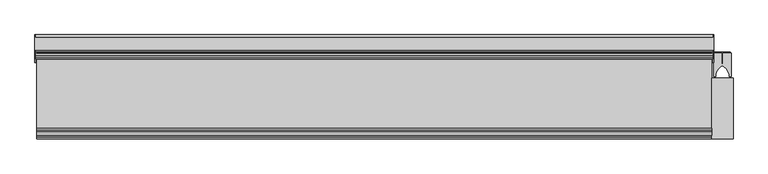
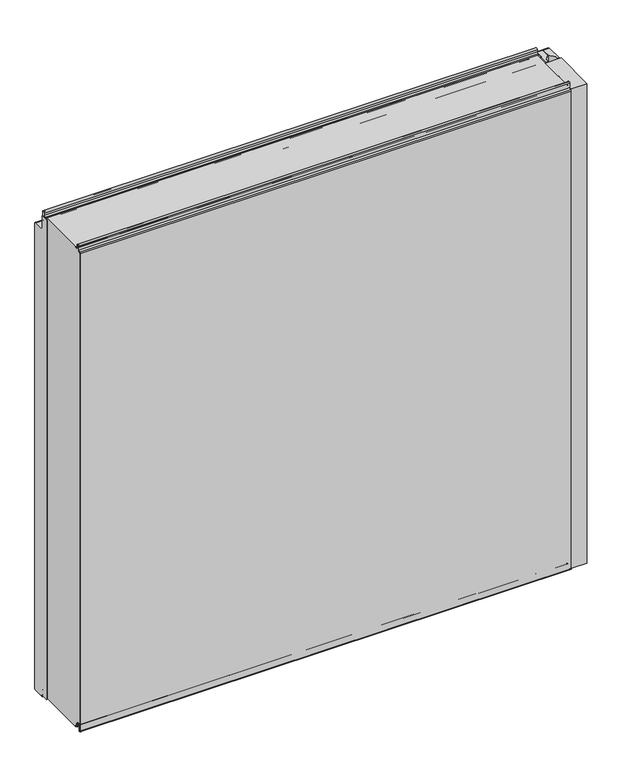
"""IFC4 building model written with IfcOpenShell, lengths in millimetres: plate geometry, Fronttop : Fronttop 150/1000."""

from ifc_helpers import new_model, si_unit, point, frame, frame_2d, origin, origin_with_axes, place, context, project, spatial, polyline, circle_curve, trimmed, segment, composite_curve, outline, extrude, source, transform, mapped, element, save
from ifc_brep_helpers import plane_surface, cylinder_surface, revolved_surface, advanced_brep


def plate_18d6e1de(model_context):
    return source(origin(), model_context, "Body", "SolidModel", [
        advanced_brep(
        [(-486.5, 124.0, 1008.0), (-486.5, 121.0, 1008.0), (-486.5, 121.0, 1004.0), (-486.5, 117.0, 1000.0), (-486.5, 115.0, 1000.0), (-486.5, 115.0, 1001.0), (-486.5, 117.0, 1001.0), (-486.5, 120.0, 1004.0), (-486.5, 120.0, 1008.0), (-486.5, 125.0, 1008.0), (-486.5, 125.0, 1000.0), (-486.5, 124.0, 1000.0), (486.5, 125.0, 1008.0), (486.5, 120.0, 1008.0), (486.5, 120.0, 1004.0), (486.5, 117.0, 1001.0), (486.5, 115.0, 1001.0), (486.5, 115.0, 1000.0), (486.5, 117.0, 1000.0), (486.5, 121.0, 1004.0), (486.5, 121.0, 1008.0), (486.5, 124.0, 1008.0), (486.5, 124.0, 1000.0), (486.5, 125.0, 1000.0), (-486.5, 117.0, 2.0), (486.5, 117.0, 2.0), (486.5, 115.0, 2.0), (-486.5, 115.0, 2.0), (-486.5, 119.0, 4.0), (486.5, 119.0, 4.0), (-486.5, 119.0, 8.0), (486.5, 119.0, 8.0), (-486.5, 126.0, 8.0), (486.5, 126.0, 8.0), (-486.5, 126.0, 0.0), (486.5, 126.0, 0.0), (-486.5, 129.0, -3.0), (486.5, 129.0, -3.0), (-486.5, 125.0, -3.0), (-487.5, 125.0, -3.0), (-487.5, 147.0, -3.0), (-486.5, 147.0, -3.0), (486.5, 147.0, -3.0), (487.5, 147.0, -3.0), (487.5, 125.0, -3.0), (486.5, 125.0, -3.0), (-486.5, 150.0, 0.0), (486.5, 150.0, 0.0), (-487.5, 150.0, 0.0), (-487.5, 150.0, 969.0), (-486.5, 150.0, 969.0), (486.5, 150.0, 969.0), (487.5, 150.0, 969.0), (487.5, 150.0, 0.0), (-486.5, 147.0, 972.0), (486.5, 147.0, 972.0), (-487.5, 147.0, 972.0), (-487.5, 128.0, 972.0), (-486.5, 128.0, 972.0), (486.5, 128.0, 972.0), (487.5, 128.0, 972.0), (487.5, 147.0, 972.0), (-486.5, 125.0, 975.0), (486.5, 125.0, 975.0), (-487.5, 125.0, 975.0), (-487.5, 125.0, 1000.0), (487.5, 125.0, 1000.0), (487.5, 125.0, 975.0), (-486.5, 124.0, 975.0), (486.5, 124.0, 975.0), (-486.5, 128.0, 971.0), (486.5, 128.0, 971.0), (-486.5, 147.0, 971.0), (486.5, 147.0, 971.0), (-486.5, 149.0, 969.0), (486.5, 149.0, 969.0), (-486.5, 149.0, 0.0), (486.5, 149.0, 0.0), (-486.5, 147.0, -2.0), (486.5, 147.0, -2.0), (-486.5, 129.0, -2.0), (486.5, 129.0, -2.0), (-486.5, 127.0, 0.0), (486.5, 127.0, 0.0), (-486.5, 127.0, 8.0), (486.5, 127.0, 8.0), (-486.5, 118.0, 8.0), (486.5, 118.0, 8.0), (-486.5, 118.0, 4.0), (486.5, 118.0, 4.0), (-486.5, 117.0, 3.0), (486.5, 117.0, 3.0), (-486.5, 115.0, 3.0), (486.5, 115.0, 3.0), (487.5, 110.0, 1000.0), (487.5, 110.0, 0.0), (487.5, 125.0, 0.0), (486.5, 125.0, 0.0), (486.5, 110.0, 0.0), (486.5, 110.0, 1000.0), (-487.5, 125.0, 0.0), (-487.5, 110.0, 0.0), (-487.5, 110.0, 1000.0), (-486.5, 110.0, 1000.0), (-486.5, 110.0, 0.0), (-486.5, 125.0, 0.0)],
        [
            (0, 1, circle_curve(frame((-486.5, 122.5, 1008.0), z_axis=(1.0, 0.0, 0.0), x_axis=(0.0, -1.0, 0.0)), 1.5)),
            (1, 2),
            (2, 3, circle_curve(frame((-486.5, 117.0, 1004.0), z_axis=(-1.0, 0.0, 0.0), x_axis=(0.0, -1.0, 0.0)), 4.0)),
            (3, 4),
            (4, 5),
            (5, 6),
            (6, 7, circle_curve(frame((-486.5, 117.0, 1004.0), z_axis=(1.0, 0.0, 0.0), x_axis=(0.0, -1.0, 0.0)), 3.0)),
            (7, 8),
            (8, 9, circle_curve(frame((-486.5, 122.5, 1008.0), z_axis=(-1.0, 0.0, 0.0), x_axis=(0.0, -1.0, 0.0)), 2.5)),
            (9, 10),
            (10, 11),
            (11, 0),
            (12, 13, circle_curve(frame((486.5, 122.5, 1008.0), z_axis=(1.0, 0.0, 0.0), x_axis=(0.0, -1.0, 0.0)), 2.5)),
            (13, 14),
            (14, 15, circle_curve(frame((486.5, 117.0, 1004.0), z_axis=(-1.0, 0.0, 0.0), x_axis=(0.0, -1.0, 0.0)), 3.0)),
            (15, 16),
            (16, 17),
            (17, 18),
            (18, 19, circle_curve(frame((486.5, 117.0, 1004.0), z_axis=(1.0, 0.0, 0.0), x_axis=(0.0, -1.0, 0.0)), 4.0)),
            (19, 20),
            (20, 21, circle_curve(frame((486.5, 122.5, 1008.0), z_axis=(-1.0, 0.0, 0.0), x_axis=(0.0, -1.0, 0.0)), 1.5)),
            (21, 22),
            (22, 23),
            (23, 12),
            (24, 25),
            (25, 26),
            (26, 27),
            (27, 24),
            (24, 28, circle_curve(frame((-486.5, 117.0, 4.0), z_axis=(1.0, 0.0, 0.0), x_axis=(0.0, -1.0, 0.0)), 2.0)),
            (28, 29),
            (29, 25, circle_curve(frame((486.5, 117.0, 4.0), z_axis=(-1.0, 0.0, 0.0), x_axis=(0.0, -1.0, 0.0)), 2.0)),
            (28, 30),
            (30, 31),
            (31, 29),
            (30, 32, circle_curve(frame((-486.5, 122.5, 8.0), z_axis=(-1.0, 0.0, 0.0), x_axis=(0.0, -1.0, 0.0)), 3.5)),
            (32, 33),
            (33, 31, circle_curve(frame((486.5, 122.5, 8.0), z_axis=(1.0, 0.0, 0.0), x_axis=(0.0, -1.0, 0.0)), 3.5)),
            (32, 34),
            (34, 35),
            (35, 33),
            (34, 36, circle_curve(frame((-486.5, 129.0, 0.0), z_axis=(1.0, 0.0, 0.0), x_axis=(0.0, -1.0, 0.0)), 3.0)),
            (36, 37),
            (37, 35, circle_curve(frame((486.5, 129.0, 0.0), z_axis=(-1.0, 0.0, 0.0), x_axis=(0.0, -1.0, 0.0)), 3.0)),
            (36, 38),
            (38, 39),
            (39, 40),
            (40, 41),
            (41, 42),
            (42, 43),
            (43, 44),
            (44, 45),
            (45, 37),
            (41, 46, circle_curve(frame((-486.5, 147.0, 0.0), z_axis=(1.0, 0.0, 0.0), x_axis=(0.0, -1.0, 0.0)), 3.0)),
            (46, 47),
            (47, 42, circle_curve(frame((486.5, 147.0, 0.0), z_axis=(-1.0, 0.0, 0.0), x_axis=(0.0, -1.0, 0.0)), 3.0)),
            (46, 48),
            (48, 49),
            (49, 50),
            (50, 51),
            (51, 52),
            (52, 53),
            (53, 47),
            (50, 54, circle_curve(frame((-486.5, 147.0, 969.0), z_axis=(1.0, 0.0, 0.0), x_axis=(0.0, -1.0, 0.0)), 3.0)),
            (54, 55),
            (55, 51, circle_curve(frame((486.5, 147.0, 969.0), z_axis=(-1.0, 0.0, 0.0), x_axis=(0.0, -1.0, 0.0)), 3.0)),
            (54, 56),
            (56, 57),
            (57, 58),
            (58, 59),
            (59, 60),
            (60, 61),
            (61, 55),
            (58, 62, circle_curve(frame((-486.5, 128.0, 975.0), z_axis=(-1.0, 0.0, 0.0), x_axis=(0.0, -1.0, 0.0)), 3.0)),
            (62, 63),
            (63, 59, circle_curve(frame((486.5, 128.0, 975.0), z_axis=(1.0, 0.0, 0.0), x_axis=(0.0, -1.0, 0.0)), 3.0)),
            (62, 64),
            (64, 65),
            (65, 10),
            (9, 12),
            (23, 66),
            (66, 67),
            (67, 63),
            (8, 13),
            (7, 14),
            (6, 15),
            (5, 16),
            (4, 17),
            (4, 3),
            (3, 18),
            (18, 17),
            (2, 19),
            (1, 20),
            (0, 21),
            (11, 68),
            (68, 69),
            (69, 22),
            (68, 70, circle_curve(frame((-486.5, 128.0, 975.0), z_axis=(1.0, 0.0, 0.0), x_axis=(0.0, -1.0, 0.0)), 4.0)),
            (70, 71),
            (71, 69, circle_curve(frame((486.5, 128.0, 975.0), z_axis=(-1.0, 0.0, 0.0), x_axis=(0.0, -1.0, 0.0)), 4.0)),
            (70, 72),
            (72, 73),
            (73, 71),
            (72, 74, circle_curve(frame((-486.5, 147.0, 969.0), z_axis=(-1.0, 0.0, 0.0), x_axis=(0.0, -1.0, 0.0)), 2.0)),
            (74, 75),
            (75, 73, circle_curve(frame((486.5, 147.0, 969.0), z_axis=(1.0, 0.0, 0.0), x_axis=(0.0, -1.0, 0.0)), 2.0)),
            (74, 76),
            (76, 77),
            (77, 75),
            (76, 78, circle_curve(frame((-486.5, 147.0, 0.0), z_axis=(-1.0, 0.0, 0.0), x_axis=(0.0, -1.0, 0.0)), 2.0)),
            (78, 79),
            (79, 77, circle_curve(frame((486.5, 147.0, 0.0), z_axis=(1.0, 0.0, 0.0), x_axis=(0.0, -1.0, 0.0)), 2.0)),
            (78, 80),
            (80, 81),
            (81, 79),
            (80, 82, circle_curve(frame((-486.5, 129.0, 0.0), z_axis=(-1.0, 0.0, 0.0), x_axis=(0.0, -1.0, 0.0)), 2.0)),
            (82, 83),
            (83, 81, circle_curve(frame((486.5, 129.0, 0.0), z_axis=(1.0, 0.0, 0.0), x_axis=(0.0, -1.0, 0.0)), 2.0)),
            (82, 84),
            (84, 85),
            (85, 83),
            (84, 86, circle_curve(frame((-486.5, 122.5, 8.0), z_axis=(1.0, 0.0, 0.0), x_axis=(0.0, -1.0, 0.0)), 4.5)),
            (86, 87),
            (87, 85, circle_curve(frame((486.5, 122.5, 8.0), z_axis=(-1.0, 0.0, 0.0), x_axis=(0.0, -1.0, 0.0)), 4.5)),
            (86, 88),
            (88, 89),
            (89, 87),
            (88, 90, circle_curve(frame((-486.5, 117.0, 4.0), z_axis=(-1.0, 0.0, 0.0), x_axis=(0.0, -1.0, 0.0)), 1.0)),
            (90, 91),
            (91, 89, circle_curve(frame((486.5, 117.0, 4.0), z_axis=(1.0, 0.0, 0.0), x_axis=(0.0, -1.0, 0.0)), 1.0)),
            (90, 92),
            (92, 93),
            (93, 91),
            (26, 93),
            (92, 27),
            (66, 94),
            (94, 95),
            (95, 96),
            (96, 44),
            (43, 53, circle_curve(frame((487.5, 147.0, 0.0), z_axis=(1.0, 0.0, 0.0), x_axis=(0.0, 1.0, 0.0)), 3.0)),
            (52, 61, circle_curve(frame((487.5, 147.0, 969.0), z_axis=(1.0, 0.0, 0.0), x_axis=(0.0, 1.0, 0.0)), 3.0)),
            (60, 67, circle_curve(frame((487.5, 128.0, 975.0), z_axis=(-1.0, 0.0, 0.0), x_axis=(0.0, 1.0, 0.0)), 3.0)),
            (45, 97),
            (97, 98),
            (98, 99),
            (99, 17),
            (18, 22),
            (99, 94),
            (98, 95),
            (97, 96),
            (64, 57, circle_curve(frame((-487.5, 128.0, 975.0), z_axis=(1.0, 0.0, 0.0), x_axis=(0.0, 1.0, 0.0)), 3.0)),
            (56, 49, circle_curve(frame((-487.5, 147.0, 969.0), z_axis=(-1.0, 0.0, 0.0), x_axis=(0.0, 1.0, 0.0)), 3.0)),
            (48, 40, circle_curve(frame((-487.5, 147.0, 0.0), z_axis=(-1.0, 0.0, 0.0), x_axis=(0.0, 1.0, 0.0)), 3.0)),
            (39, 100),
            (100, 101),
            (101, 102),
            (102, 65),
            (103, 104),
            (104, 105),
            (105, 38),
            (11, 3),
            (4, 103),
            (102, 103),
            (101, 104),
            (100, 105),
        ],
        [
            plane_surface(frame((-486.5, 0.0, 0.0), z_axis=(-1.0, 0.0, 0.0), x_axis=(0.0, 0.0, 1.0))),
            plane_surface(frame((486.5, 0.0, 0.0), z_axis=(1.0, 0.0, 0.0), x_axis=(0.0, 0.0, 1.0))),
            plane_surface(frame((-486.5, 117.0, 2.0), z_axis=(0.0, 0.0, -1.0), x_axis=(1.0, 0.0, 0.0))),
            cylinder_surface(frame((-486.5, 117.0, 4.0), z_axis=(-1.0, 0.0, 0.0), x_axis=(0.0, -1.0, 0.0)), 2.0),
            plane_surface(frame((-486.5, 119.0, 8.0), z_axis=(0.0, 1.0, 0.0), x_axis=(1.0, 0.0, 0.0))),
            revolved_surface(polyline([(486.5, 119.0, 8.0), (-486.5, 119.0, 8.0)]), (-486.5, 122.5, 8.0), (1.0, 0.0, 0.0)),
            plane_surface(frame((-486.5, 126.0, 0.0), z_axis=(0.0, -1.0, 0.0), x_axis=(1.0, 0.0, 0.0))),
            cylinder_surface(frame((-486.5, 129.0, 0.0), z_axis=(-1.0, 0.0, 0.0), x_axis=(0.0, -1.0, 0.0)), 3.0),
            plane_surface(frame((-486.5, 147.0, -3.0), z_axis=(0.0, 0.0, -1.0), x_axis=(1.0, 0.0, 0.0))),
            cylinder_surface(frame((-486.5, 147.0, 0.0), z_axis=(-1.0, 0.0, 0.0), x_axis=(0.0, -1.0, 0.0)), 3.0),
            plane_surface(frame((-486.5, 150.0, 969.0), z_axis=(0.0, 1.0, 0.0), x_axis=(1.0, 0.0, 0.0))),
            cylinder_surface(frame((-486.5, 147.0, 969.0), z_axis=(-1.0, 0.0, 0.0), x_axis=(0.0, -1.0, 0.0)), 3.0),
            plane_surface(frame((-486.5, 128.0, 972.0), z_axis=(0.0, 0.0, 1.0), x_axis=(1.0, 0.0, 0.0))),
            revolved_surface(polyline([(486.5, 125.0, 975.0), (-486.5, 125.0, 975.0)]), (-486.5, 128.0, 975.0), (1.0, 0.0, 0.0)),
            plane_surface(frame((-486.5, 125.0, 1008.0), z_axis=(0.0, 1.0, 0.0), x_axis=(1.0, 0.0, 0.0))),
            cylinder_surface(frame((-486.5, 122.5, 1008.0), z_axis=(-1.0, 0.0, 0.0), x_axis=(0.0, -1.0, 0.0)), 2.5),
            plane_surface(frame((-486.5, 120.0, 1004.0), z_axis=(0.0, -1.0, 0.0), x_axis=(1.0, 0.0, 0.0))),
            revolved_surface(polyline([(486.5, 114.0, 1004.0), (-486.5, 114.0, 1004.0)]), (-486.5, 117.0, 1004.0), (1.0, 0.0, 0.0)),
            plane_surface(frame((-486.5, 115.0, 1001.0), z_axis=(0.0, 0.0, 1.0), x_axis=(1.0, 0.0, 0.0))),
            plane_surface(frame((-486.5, 115.0, 1000.0), z_axis=(0.0, -1.0, 0.0), x_axis=(1.0, 0.0, 0.0))),
            plane_surface(frame((-486.5, 117.0, 1000.0), z_axis=(0.0, 0.0, -1.0), x_axis=(1.0, 0.0, 0.0))),
            cylinder_surface(frame((-486.5, 117.0, 1004.0), z_axis=(-1.0, 0.0, 0.0), x_axis=(0.0, -1.0, 0.0)), 4.0),
            plane_surface(frame((-486.5, 121.0, 1008.0), z_axis=(0.0, 1.0, 0.0), x_axis=(1.0, 0.0, 0.0))),
            revolved_surface(polyline([(486.5, 121.0, 1008.0), (-486.5, 121.0, 1008.0)]), (-486.5, 122.5, 1008.0), (1.0, 0.0, 0.0)),
            plane_surface(frame((-486.5, 124.0, 975.0), z_axis=(0.0, -1.0, 0.0), x_axis=(1.0, 0.0, 0.0))),
            cylinder_surface(frame((-486.5, 128.0, 975.0), z_axis=(-1.0, 0.0, 0.0), x_axis=(0.0, -1.0, 0.0)), 4.0),
            plane_surface(frame((-486.5, 147.0, 971.0), z_axis=(0.0, 0.0, -1.0), x_axis=(1.0, 0.0, 0.0))),
            revolved_surface(polyline([(486.5, 145.0, 969.0), (-486.5, 145.0, 969.0)]), (-486.5, 147.0, 969.0), (1.0, 0.0, 0.0)),
            plane_surface(frame((-486.5, 149.0, 0.0), z_axis=(0.0, -1.0, 0.0), x_axis=(1.0, 0.0, 0.0))),
            revolved_surface(polyline([(486.5, 145.0, 0.0), (-486.5, 145.0, 0.0)]), (-486.5, 147.0, 0.0), (1.0, 0.0, 0.0)),
            plane_surface(frame((-486.5, 129.0, -2.0), z_axis=(0.0, 0.0, 1.0), x_axis=(1.0, 0.0, 0.0))),
            revolved_surface(polyline([(486.5, 127.0, 0.0), (-486.5, 127.0, 0.0)]), (-486.5, 129.0, 0.0), (1.0, 0.0, 0.0)),
            plane_surface(frame((-486.5, 127.0, 8.0), z_axis=(0.0, 1.0, 0.0), x_axis=(1.0, 0.0, 0.0))),
            cylinder_surface(frame((-486.5, 122.5, 8.0), z_axis=(-1.0, 0.0, 0.0), x_axis=(0.0, -1.0, 0.0)), 4.5),
            plane_surface(frame((-486.5, 118.0, 4.0), z_axis=(0.0, -1.0, 0.0), x_axis=(1.0, 0.0, 0.0))),
            revolved_surface(polyline([(486.5, 116.0, 4.0), (-486.5, 116.0, 4.0)]), (-486.5, 117.0, 4.0), (1.0, 0.0, 0.0)),
            plane_surface(frame((-486.5, 115.0, 3.0), z_axis=(0.0, 0.0, 1.0), x_axis=(1.0, 0.0, 0.0))),
            plane_surface(frame((-486.5, 115.0, 2.0), z_axis=(0.0, -1.0, 0.0), x_axis=(1.0, 0.0, 0.0))),
            plane_surface(frame((487.5, 125.0, 1000.0), z_axis=(1.0, 0.0, 0.0), x_axis=(0.0, -1.0, 0.0))),
            plane_surface(frame((486.5, 125.0, 1000.0), z_axis=(-1.0, 0.0, 0.0), x_axis=(0.0, 1.0, 0.0))),
            plane_surface(frame((487.5, 125.0, 1000.0), z_axis=(0.0, 0.0, 1.0), x_axis=(-1.0, 0.0, 0.0))),
            plane_surface(frame((487.5, 110.0, 1000.0), z_axis=(0.0, -1.0, 0.0), x_axis=(-1.0, 0.0, 0.0))),
            plane_surface(frame((487.5, 110.0, 0.0), z_axis=(0.0, 0.0, -1.0), x_axis=(-1.0, 0.0, 0.0))),
            cylinder_surface(frame((486.5, 147.0, 0.0), z_axis=(1.0, 0.0, 0.0), x_axis=(0.0, 1.0, 0.0)), 3.0),
            cylinder_surface(frame((486.5, 147.0, 969.0), z_axis=(1.0, 0.0, 0.0), x_axis=(0.0, 1.0, 0.0)), 3.0),
            revolved_surface(polyline([(486.5, 131.0, 975.0), (487.5, 131.0, 975.0)]), (486.5, 128.0, 975.0), (-1.0, 0.0, 0.0)),
            plane_surface(frame((-487.5, 125.0, 1000.0), z_axis=(-1.0, 0.0, 0.0), x_axis=(0.0, 1.0, 0.0))),
            plane_surface(frame((-486.5, 125.0, 1000.0), z_axis=(1.0, 0.0, 0.0), x_axis=(0.0, -1.0, 0.0))),
            plane_surface(frame((-486.5, 125.0, 1000.0), z_axis=(0.0, 0.0, 1.0), x_axis=(-1.0, 0.0, 0.0))),
            plane_surface(frame((-486.5, 110.0, 1000.0), z_axis=(0.0, -1.0, 0.0), x_axis=(-1.0, 0.0, 0.0))),
            plane_surface(frame((-486.5, 110.0, 0.0), z_axis=(0.0, 0.0, -1.0), x_axis=(-1.0, 0.0, 0.0))),
            cylinder_surface(frame((-487.5, 147.0, 0.0), z_axis=(1.0, 0.0, 0.0), x_axis=(0.0, 1.0, 0.0)), 3.0),
            cylinder_surface(frame((-487.5, 147.0, 969.0), z_axis=(1.0, 0.0, 0.0), x_axis=(0.0, 1.0, 0.0)), 3.0),
            revolved_surface(polyline([(-487.5, 131.0, 975.0), (-486.5, 131.0, 975.0)]), (-487.5, 128.0, 975.0), (-1.0, 0.0, 0.0)),
            plane_surface(frame((487.5, 125.0, 0.0), z_axis=(0.0, -1.0, 0.0), x_axis=(-1.0, 0.0, 0.0))),
            plane_surface(frame((-486.5, 125.0, 0.0), z_axis=(0.0, -1.0, 0.0), x_axis=(-1.0, 0.0, 0.0))),
        ],
        [
            (0, [[1, 2, 3, 4, 5, 6, 7, 8, 9, 10, 11, 12]]),
            (1, [[13, 14, 15, 16, 17, 18, 19, 20, 21, 22, 23, 24]]),
            (2, [[25, 26, 27, 28]]),
            (3, [[-25, 29, 30, 31]]),
            (4, [[-30, 32, 33, 34]]),
            (5, [[-33, 35, 36, 37]]),
            (6, [[-36, 38, 39, 40]]),
            (7, [[-39, 41, 42, 43]]),
            (8, [[-42, 44, 45, 46, 47, 48, 49, 50, 51, 52]]),
            (9, [[-48, 53, 54, 55]]),
            (10, [[-54, 56, 57, 58, 59, 60, 61, 62]]),
            (11, [[-59, 63, 64, 65]]),
            (12, [[-64, 66, 67, 68, 69, 70, 71, 72]]),
            (13, [[-69, 73, 74, 75]]),
            (14, [[-74, 76, 77, 78, -10, 79, -24, 80, 81, 82]]),
            (15, [[-9, 83, -13, -79]]),
            (16, [[-8, 84, -14, -83]]),
            (17, [[-7, 85, -15, -84]]),
            (18, [[-6, 86, -16, -85]]),
            (19, [[-5, 87, -17, -86]]),
            (20, [[-87, 88, 89, 90]]),
            (21, [[-3, 91, -19, -89]]),
            (22, [[-2, 92, -20, -91]]),
            (23, [[-1, 93, -21, -92]]),
            (24, [[-93, -12, 94, 95, 96, -22]]),
            (25, [[-95, 97, 98, 99]]),
            (26, [[-98, 100, 101, 102]]),
            (27, [[-101, 103, 104, 105]]),
            (28, [[-104, 106, 107, 108]]),
            (29, [[-107, 109, 110, 111]]),
            (30, [[-110, 112, 113, 114]]),
            (31, [[-113, 115, 116, 117]]),
            (32, [[-116, 118, 119, 120]]),
            (33, [[-119, 121, 122, 123]]),
            (34, [[-122, 124, 125, 126]]),
            (35, [[-125, 127, 128, 129]]),
            (36, [[-128, 130, 131, 132]]),
            (37, [[-27, 133, -131, 134]]),
            (38, [[135, 136, 137, 138, -50, 139, -61, 140, -71, 141, -81]]),
            (39, [[142, 143, 144, 145, -90, 146, -96, -99, -102, -105, -108, -111, -114, -117, -120, -123, -126, -129, -132, -133, -26, -31, -34, -37, -40, -43, -52]]),
            (40, [[-135, -80, -23, -146, -18, -145, 147]]),
            (41, [[-136, -147, -144, 148]]),
            (42, [[-137, -148, -143, 149]]),
            (43, [[-139, -49, -55, -62]]),
            (44, [[-140, -60, -65, -72]]),
            (45, [[-141, -70, -75, -82]]),
            (46, [[-77, 150, -67, 151, -57, 152, -46, 153, 154, 155, 156]]),
            (47, [[157, 158, 159, -44, -41, -38, -35, -32, -29, -28, -134, -130, -127, -124, -121, -118, -115, -112, -109, -106, -103, -100, -97, -94, 160, -88, 161]]),
            (48, [[-156, 162, -161, -4, -160, -11, -78]]),
            (49, [[-155, 163, -157, -162]]),
            (50, [[-154, 164, -158, -163]]),
            (51, [[-152, -56, -53, -47]]),
            (52, [[-151, -66, -63, -58]]),
            (53, [[-150, -76, -73, -68]]),
            (54, [[-138, -149, -142, -51]]),
            (55, [[-153, -45, -159, -164]]),
        ],
    ),
        extrude(outline(composite_curve([segment(polyline([(487.4998455, 123.5), (499.25, 123.5), (499.25, 107.5), (500.75, 107.5), (500.75, 123.5), (512.5001545, 123.5), (512.5001545, 90.0), (509.75, 90.0), (509.75, 92.5)]), True, "CONTINUOUS"), segment(trimmed(circle_curve(frame_2d((491.9661979, 89.3183984)), 18.0661619), [point((509.75, 92.5))], [point((500.0, 105.5))], True, "CARTESIAN"), True, "CONTINUOUS"), segment(trimmed(circle_curve(frame_2d((508.0338021, 89.3183984)), 18.0661619), [point((500.0, 105.5))], [point((490.25, 92.5))], True, "CARTESIAN"), True, "CONTINUOUS"), segment(polyline([(490.25, 92.5), (490.25, 90.0), (487.4998455, 90.0), (487.4998455, 123.5)]), True, "CONTINUOUS")], self_intersect=False)), origin_with_axes(), (0.0, 0.0, 1.0), 1000.0),
        extrude(outline(polyline([(515.5, 0.0), (484.5, 0.0), (484.5, 88.0), (515.5, 88.0), (515.5, 0.0)])), origin_with_axes(), (0.0, 0.0, 1.0), 1000.0),
        extrude(outline(polyline([(488.4948846, 125.0), (511.5051154, 125.0), (511.5051154, 123.5), (500.6502496, 123.5), (500.6502496, 109.0759655), (499.35, 109.0759655), (499.35, 123.5), (488.4948846, 123.5), (488.4948846, 125.0)])), origin_with_axes(), (0.0, 0.0, 1.0), 1000.0),
        advanced_brep(
        [(-484.5, 13.0, 1001.0), (-484.5, 15.0, 1001.0), (-484.5, 15.0, 1000.0), (-484.5, 13.0, 1000.0), (-484.5, 9.0, 1004.0), (-484.5, 9.0, 1008.0), (-484.5, 6.0, 1008.0), (-484.5, 6.0, 999.5), (-484.5, 2.1134897, 996.0214069), (-484.5, 1.0, 995.0), (-484.5, 1.0, -0.5), (-484.5, 3.0, -0.5), (-484.5, 3.0, 8.0), (-484.5, 12.0, 8.0), (-484.5, 12.0, 4.0), (-484.5, 13.0, 3.0), (-484.5, 15.0, 3.0), (-484.5, 15.0, 2.0), (-484.5, 13.0, 2.0), (-484.5, 11.0, 4.0), (-484.5, 11.0, 8.0), (-484.5, 4.0, 8.0), (-484.5, 4.0, -0.5), (-484.5, 0.0, -0.5), (-484.5, 0.0, 995.0), (-484.5, 2.220863, 996.9877675), (-484.5, 5.0, 999.5), (-484.5, 5.0, 1008.0), (-484.5, 10.0, 1008.0), (-484.5, 10.0, 1004.0), (484.5, 13.0, 1001.0), (484.5, 10.0, 1004.0), (484.5, 10.0, 1008.0), (484.5, 5.0, 1008.0), (484.5, 5.0, 999.5), (484.5, 2.2239212, 997.0152907), (484.5, 0.0, 995.0), (484.5, 0.0, -0.5), (484.5, 4.0, -0.5), (484.5, 4.0, 8.0), (484.5, 11.0, 8.0), (484.5, 11.0, 4.0), (484.5, 13.0, 2.0), (484.5, 15.0, 2.0), (484.5, 15.0, 3.0), (484.5, 13.0, 3.0), (484.5, 12.0, 4.0), (484.5, 12.0, 8.0), (484.5, 3.0, 8.0), (484.5, 3.0, -0.5), (484.5, 1.0, -0.5), (484.5, 1.0, 995.0), (484.5, 2.1104315, 995.9938837), (484.5, 6.0, 999.5), (484.5, 6.0, 1008.0), (484.5, 9.0, 1008.0), (484.5, 9.0, 1004.0), (484.5, 13.0, 1000.0), (484.5, 15.0, 1000.0), (484.5, 15.0, 1001.0)],
        [
            (0, 1),
            (1, 2),
            (2, 3),
            (3, 4, circle_curve(frame((-484.5, 13.0, 1004.0), z_axis=(-1.0, 0.0, 0.0), x_axis=(0.0, -1.0, 0.0)), 4.0)),
            (4, 5),
            (5, 6, circle_curve(frame((-484.5, 7.5, 1008.0), z_axis=(1.0, 0.0, 0.0), x_axis=(0.0, -1.0, 0.0)), 1.5)),
            (6, 7),
            (7, 8, circle_curve(frame((-484.5, 2.5, 999.5), z_axis=(-1.0, 0.0, 0.0), x_axis=(0.0, -1.0, 0.0)), 3.5)),
            (8, 9, circle_curve(frame((-484.5, 2.0, 995.0), z_axis=(1.0, 0.0, 0.0), x_axis=(0.0, -1.0, 0.0)), 1.0)),
            (9, 10),
            (10, 11, circle_curve(frame((-484.5, 2.0, -0.5), z_axis=(1.0, 0.0, 0.0), x_axis=(0.0, -1.0, 0.0)), 1.0)),
            (11, 12),
            (12, 13, circle_curve(frame((-484.5, 7.5, 8.0), z_axis=(-1.0, 0.0, 0.0), x_axis=(0.0, -1.0, 0.0)), 4.5)),
            (13, 14),
            (14, 15, circle_curve(frame((-484.5, 13.0, 4.0), z_axis=(1.0, 0.0, 0.0), x_axis=(0.0, -1.0, 0.0)), 1.0)),
            (15, 16),
            (16, 17),
            (17, 18),
            (18, 19, circle_curve(frame((-484.5, 13.0, 4.0), z_axis=(-1.0, 0.0, 0.0), x_axis=(0.0, -1.0, 0.0)), 2.0)),
            (19, 20),
            (20, 21, circle_curve(frame((-484.5, 7.5, 8.0), z_axis=(1.0, 0.0, 0.0), x_axis=(0.0, -1.0, 0.0)), 3.5)),
            (21, 22),
            (22, 23, circle_curve(frame((-484.5, 2.0, -0.5), z_axis=(-1.0, 0.0, 0.0), x_axis=(0.0, -1.0, 0.0)), 2.0)),
            (23, 24),
            (24, 25, circle_curve(frame((-484.5, 2.0, 995.0), z_axis=(-1.0, 0.0, 0.0), x_axis=(0.0, -1.0, 0.0)), 2.0)),
            (25, 26, circle_curve(frame((-484.5, 2.5, 999.5), z_axis=(1.0, 0.0, 0.0), x_axis=(0.0, -1.0, 0.0)), 2.5)),
            (26, 27),
            (27, 28, circle_curve(frame((-484.5, 7.5, 1008.0), z_axis=(-1.0, 0.0, 0.0), x_axis=(0.0, -1.0, 0.0)), 2.5)),
            (28, 29),
            (29, 0, circle_curve(frame((-484.5, 13.0, 1004.0), z_axis=(1.0, 0.0, 0.0), x_axis=(0.0, -1.0, 0.0)), 3.0)),
            (30, 31, circle_curve(frame((484.5, 13.0, 1004.0), z_axis=(-1.0, 0.0, 0.0), x_axis=(0.0, -1.0, 0.0)), 3.0)),
            (31, 32),
            (32, 33, circle_curve(frame((484.5, 7.5, 1008.0), z_axis=(1.0, 0.0, 0.0), x_axis=(0.0, -1.0, 0.0)), 2.5)),
            (33, 34),
            (34, 35, circle_curve(frame((484.5, 2.5, 999.5), z_axis=(-1.0, 0.0, 0.0), x_axis=(0.0, -1.0, 0.0)), 2.5)),
            (35, 36, circle_curve(frame((484.5, 2.0, 995.0), z_axis=(1.0, 0.0, 0.0), x_axis=(0.0, -1.0, 0.0)), 2.0)),
            (36, 37),
            (37, 38, circle_curve(frame((484.5, 2.0, -0.5), z_axis=(1.0, 0.0, 0.0), x_axis=(0.0, -1.0, 0.0)), 2.0)),
            (38, 39),
            (39, 40, circle_curve(frame((484.5, 7.5, 8.0), z_axis=(-1.0, 0.0, 0.0), x_axis=(0.0, -1.0, 0.0)), 3.5)),
            (40, 41),
            (41, 42, circle_curve(frame((484.5, 13.0, 4.0), z_axis=(1.0, 0.0, 0.0), x_axis=(0.0, -1.0, 0.0)), 2.0)),
            (42, 43),
            (43, 44),
            (44, 45),
            (45, 46, circle_curve(frame((484.5, 13.0, 4.0), z_axis=(-1.0, 0.0, 0.0), x_axis=(0.0, -1.0, 0.0)), 1.0)),
            (46, 47),
            (47, 48, circle_curve(frame((484.5, 7.5, 8.0), z_axis=(1.0, 0.0, 0.0), x_axis=(0.0, -1.0, 0.0)), 4.5)),
            (48, 49),
            (49, 50, circle_curve(frame((484.5, 2.0, -0.5), z_axis=(-1.0, 0.0, 0.0), x_axis=(0.0, -1.0, 0.0)), 1.0)),
            (50, 51),
            (51, 52, circle_curve(frame((484.5, 2.0, 995.0), z_axis=(-1.0, 0.0, 0.0), x_axis=(0.0, -1.0, 0.0)), 1.0)),
            (52, 53, circle_curve(frame((484.5, 2.5, 999.5), z_axis=(1.0, 0.0, 0.0), x_axis=(0.0, -1.0, 0.0)), 3.5)),
            (53, 54),
            (54, 55, circle_curve(frame((484.5, 7.5, 1008.0), z_axis=(-1.0, 0.0, 0.0), x_axis=(0.0, -1.0, 0.0)), 1.5)),
            (55, 56),
            (56, 57, circle_curve(frame((484.5, 13.0, 1004.0), z_axis=(1.0, 0.0, 0.0), x_axis=(0.0, -1.0, 0.0)), 4.0)),
            (57, 58),
            (58, 59),
            (59, 30),
            (0, 30),
            (59, 1),
            (58, 2),
            (57, 3),
            (56, 4),
            (55, 5),
            (54, 6),
            (53, 7),
            (52, 8),
            (51, 9),
            (50, 10),
            (49, 11),
            (48, 12),
            (47, 13),
            (46, 14),
            (45, 15),
            (44, 16),
            (43, 17),
            (42, 18),
            (41, 19),
            (40, 20),
            (39, 21),
            (38, 22),
            (37, 23),
            (36, 24),
            (35, 25),
            (34, 26),
            (33, 27),
            (32, 28),
            (31, 29),
        ],
        [
            plane_surface(frame((-484.5, 0.0, 0.0), z_axis=(-1.0, 0.0, 0.0), x_axis=(0.0, 0.0, 1.0))),
            plane_surface(frame((484.5, 0.0, 0.0), z_axis=(1.0, 0.0, 0.0), x_axis=(0.0, 0.0, 1.0))),
            plane_surface(frame((-484.5, 13.0, 1001.0), z_axis=(0.0, 0.0, 1.0), x_axis=(1.0, 0.0, 0.0))),
            plane_surface(frame((-484.5, 15.0, 1001.0), z_axis=(0.0, 1.0, 0.0), x_axis=(1.0, 0.0, 0.0))),
            plane_surface(frame((-484.5, 15.0, 1000.0), z_axis=(0.0, 0.0, -1.0), x_axis=(1.0, 0.0, 0.0))),
            cylinder_surface(frame((-484.5, 13.0, 1004.0), z_axis=(-1.0, 0.0, 0.0), x_axis=(0.0, -1.0, 0.0)), 4.0),
            plane_surface(frame((-484.5, 9.0, 1004.0), z_axis=(0.0, -1.0, 0.0), x_axis=(1.0, 0.0, 0.0))),
            revolved_surface(polyline([(484.5, 6.0, 1008.0), (-484.5, 6.0, 1008.0)]), (-484.5, 7.5, 1008.0), (1.0, 0.0, 0.0)),
            plane_surface(frame((-484.5, 6.0, 1008.0), z_axis=(0.0, 1.0, 0.0), x_axis=(1.0, 0.0, 0.0))),
            cylinder_surface(frame((-484.5, 2.5, 999.5), z_axis=(-1.0, 0.0, 0.0), x_axis=(0.0, -1.0, 0.0)), 3.5),
            revolved_surface(polyline([(484.5, 1.0, 995.0), (-484.5, 1.0, 995.0)]), (-484.5, 2.0, 995.0), (1.0, 0.0, 0.0)),
            plane_surface(frame((-484.5, 1.0, 995.0), z_axis=(0.0, 1.0, 0.0), x_axis=(1.0, 0.0, 0.0))),
            revolved_surface(polyline([(484.5, 1.0, -0.5), (-484.5, 1.0, -0.5)]), (-484.5, 2.0, -0.5), (1.0, 0.0, 0.0)),
            plane_surface(frame((-484.5, 3.0, -0.5), z_axis=(0.0, -1.0, 0.0), x_axis=(1.0, 0.0, 0.0))),
            cylinder_surface(frame((-484.5, 7.5, 8.0), z_axis=(-1.0, 0.0, 0.0), x_axis=(0.0, -1.0, 0.0)), 4.5),
            plane_surface(frame((-484.5, 12.0, 8.0), z_axis=(0.0, 1.0, 0.0), x_axis=(1.0, 0.0, 0.0))),
            revolved_surface(polyline([(484.5, 12.0, 4.0), (-484.5, 12.0, 4.0)]), (-484.5, 13.0, 4.0), (1.0, 0.0, 0.0)),
            plane_surface(frame((-484.5, 13.0, 3.0), z_axis=(0.0, 0.0, 1.0), x_axis=(1.0, 0.0, 0.0))),
            plane_surface(frame((-484.5, 15.0, 3.0), z_axis=(0.0, 1.0, 0.0), x_axis=(1.0, 0.0, 0.0))),
            plane_surface(frame((-484.5, 15.0, 2.0), z_axis=(0.0, 0.0, -1.0), x_axis=(1.0, 0.0, 0.0))),
            cylinder_surface(frame((-484.5, 13.0, 4.0), z_axis=(-1.0, 0.0, 0.0), x_axis=(0.0, -1.0, 0.0)), 2.0),
            plane_surface(frame((-484.5, 11.0, 4.0), z_axis=(0.0, -1.0, 0.0), x_axis=(1.0, 0.0, 0.0))),
            revolved_surface(polyline([(484.5, 4.0, 8.0), (-484.5, 4.0, 8.0)]), (-484.5, 7.5, 8.0), (1.0, 0.0, 0.0)),
            plane_surface(frame((-484.5, 4.0, 8.0), z_axis=(0.0, 1.0, 0.0), x_axis=(1.0, 0.0, 0.0))),
            cylinder_surface(frame((-484.5, 2.0, -0.5), z_axis=(-1.0, 0.0, 0.0), x_axis=(0.0, -1.0, 0.0)), 2.0),
            plane_surface(frame((-484.5, 0.0, -0.5), z_axis=(0.0, -1.0, 0.0), x_axis=(1.0, 0.0, 0.0))),
            cylinder_surface(frame((-484.5, 2.0, 995.0), z_axis=(-1.0, 0.0, 0.0), x_axis=(0.0, -1.0, 0.0)), 2.0),
            revolved_surface(polyline([(484.5, 0.0, 999.5), (-484.5, 0.0, 999.5)]), (-484.5, 2.5, 999.5), (1.0, 0.0, 0.0)),
            plane_surface(frame((-484.5, 5.0, 999.5), z_axis=(0.0, -1.0, 0.0), x_axis=(1.0, 0.0, 0.0))),
            cylinder_surface(frame((-484.5, 7.5, 1008.0), z_axis=(-1.0, 0.0, 0.0), x_axis=(0.0, -1.0, 0.0)), 2.5),
            plane_surface(frame((-484.5, 10.0, 1008.0), z_axis=(0.0, 1.0, 0.0), x_axis=(1.0, 0.0, 0.0))),
            revolved_surface(polyline([(484.5, 10.0, 1004.0), (-484.5, 10.0, 1004.0)]), (-484.5, 13.0, 1004.0), (1.0, 0.0, 0.0)),
        ],
        [
            (0, [[1, 2, 3, 4, 5, 6, 7, 8, 9, 10, 11, 12, 13, 14, 15, 16, 17, 18, 19, 20, 21, 22, 23, 24, 25, 26, 27, 28, 29, 30]]),
            (1, [[31, 32, 33, 34, 35, 36, 37, 38, 39, 40, 41, 42, 43, 44, 45, 46, 47, 48, 49, 50, 51, 52, 53, 54, 55, 56, 57, 58, 59, 60]]),
            (2, [[-1, 61, -60, 62]]),
            (3, [[-2, -62, -59, 63]]),
            (4, [[-3, -63, -58, 64]]),
            (5, [[-4, -64, -57, 65]]),
            (6, [[-5, -65, -56, 66]]),
            (7, [[-6, -66, -55, 67]]),
            (8, [[-7, -67, -54, 68]]),
            (9, [[-8, -68, -53, 69]]),
            (10, [[-9, -69, -52, 70]]),
            (11, [[-10, -70, -51, 71]]),
            (12, [[-11, -71, -50, 72]]),
            (13, [[-12, -72, -49, 73]]),
            (14, [[-13, -73, -48, 74]]),
            (15, [[-14, -74, -47, 75]]),
            (16, [[-15, -75, -46, 76]]),
            (17, [[-16, -76, -45, 77]]),
            (18, [[-17, -77, -44, 78]]),
            (19, [[-18, -78, -43, 79]]),
            (20, [[-19, -79, -42, 80]]),
            (21, [[-20, -80, -41, 81]]),
            (22, [[-21, -81, -40, 82]]),
            (23, [[-22, -82, -39, 83]]),
            (24, [[-23, -83, -38, 84]]),
            (25, [[-24, -84, -37, 85]]),
            (26, [[-25, -85, -36, 86]]),
            (27, [[-26, -86, -35, 87]]),
            (28, [[-27, -87, -34, 88]]),
            (29, [[-28, -88, -33, 89]]),
            (30, [[-29, -89, -32, 90]]),
            (31, [[-30, -90, -31, -61]]),
        ],
    ),
        extrude(outline(composite_curve([segment(polyline([(15.0, 3.0), (13.0, 3.0)]), True, "CONTINUOUS"), segment(trimmed(circle_curve(frame_2d((13.0, 4.0)), 1.0), [point((13.0, 3.0))], [point((12.0, 4.0))], False, "CARTESIAN"), True, "CONTINUOUS"), segment(polyline([(12.0, 4.0), (12.0, 8.0)]), True, "CONTINUOUS"), segment(trimmed(circle_curve(frame_2d((7.5, 8.0)), 4.5), [point((12.0, 8.0))], [point((3.0, 8.0))], True, "CARTESIAN"), True, "CONTINUOUS"), segment(polyline([(3.0, 8.0), (3.0, -0.5)]), True, "CONTINUOUS"), segment(trimmed(circle_curve(frame_2d((2.0, -0.5)), 1.0), [point((3.0, -0.5))], [point((1.0, -0.5))], False, "CARTESIAN"), True, "CONTINUOUS"), segment(polyline([(1.0, -0.5), (1.0, 995.0278643)]), True, "CONTINUOUS"), segment(trimmed(circle_curve(frame_2d((2.0, 995.0278643)), 1.0), [point((1.0, 995.0278643))], [point((2.1111111, 996.0216723))], False, "CARTESIAN"), True, "CONTINUOUS"), segment(trimmed(circle_curve(frame_2d((2.5, 999.5)), 3.5), [point((2.1111111, 996.0216723))], [point((6.0, 999.5))], True, "CARTESIAN"), True, "CONTINUOUS"), segment(polyline([(6.0, 999.5), (6.0, 1008.0)]), True, "CONTINUOUS"), segment(trimmed(circle_curve(frame_2d((7.5, 1008.0)), 1.5), [point((6.0, 1008.0))], [point((9.0, 1008.0))], False, "CARTESIAN"), True, "CONTINUOUS"), segment(polyline([(9.0, 1008.0), (9.0, 1004.0)]), True, "CONTINUOUS"), segment(trimmed(circle_curve(frame_2d((13.0, 1004.0)), 4.0), [point((9.0, 1004.0))], [point((13.0, 1000.0))], True, "CARTESIAN"), True, "CONTINUOUS"), segment(polyline([(13.0, 1000.0), (117.0, 1000.0)]), True, "CONTINUOUS"), segment(trimmed(circle_curve(frame_2d((117.0, 1004.0)), 4.0), [point((117.0, 1000.0))], [point((121.0, 1004.0))], True, "CARTESIAN"), True, "CONTINUOUS"), segment(polyline([(121.0, 1004.0), (121.0, 1008.0)]), True, "CONTINUOUS"), segment(trimmed(circle_curve(frame_2d((122.5, 1008.0)), 1.5), [point((121.0, 1008.0))], [point((124.0, 1008.0))], False, "CARTESIAN"), True, "CONTINUOUS"), segment(polyline([(124.0, 1008.0), (124.0, 975.0)]), True, "CONTINUOUS"), segment(trimmed(circle_curve(frame_2d((128.0, 975.0)), 4.0), [point((124.0, 975.0))], [point((128.0, 971.0))], True, "CARTESIAN"), True, "CONTINUOUS"), segment(polyline([(128.0, 971.0), (147.0, 971.0)]), True, "CONTINUOUS"), segment(trimmed(circle_curve(frame_2d((147.0, 969.0)), 2.0), [point((147.0, 971.0))], [point((149.0, 969.0))], False, "CARTESIAN"), True, "CONTINUOUS"), segment(polyline([(149.0, 969.0), (149.0, 0.0)]), True, "CONTINUOUS"), segment(trimmed(circle_curve(frame_2d((147.0, 0.0)), 2.0), [point((149.0, 0.0))], [point((147.0, -2.0))], False, "CARTESIAN"), True, "CONTINUOUS"), segment(polyline([(147.0, -2.0), (129.0, -2.0)]), True, "CONTINUOUS"), segment(trimmed(circle_curve(frame_2d((129.0, 0.0)), 2.0), [point((129.0, -2.0))], [point((127.0, 0.0))], False, "CARTESIAN"), True, "CONTINUOUS"), segment(polyline([(127.0, 0.0), (127.0, 8.0)]), True, "CONTINUOUS"), segment(trimmed(circle_curve(frame_2d((122.5, 8.0)), 4.5), [point((127.0, 8.0))], [point((118.0, 8.0))], True, "CARTESIAN"), True, "CONTINUOUS"), segment(polyline([(118.0, 8.0), (118.0, 4.0)]), True, "CONTINUOUS"), segment(trimmed(circle_curve(frame_2d((117.0, 4.0)), 1.0), [point((118.0, 4.0))], [point((117.0, 3.0))], False, "CARTESIAN"), True, "CONTINUOUS"), segment(polyline([(117.0, 3.0), (115.0, 3.0), (115.0, 0.0), (15.0, 0.0), (15.0, 3.0)]), True, "CONTINUOUS")], self_intersect=False)), frame((-484.5, 0.0, 0.0), z_axis=(1.0, 0.0, 0.0), x_axis=(0.0, 1.0, 0.0)), (0.0, 0.0, 1.0), 969.0),
    ])


if __name__ == "__main__":
    model = new_model("IFC4")
    model_context = context("Model", 3, world=origin())
    ifc_project = project(units=[si_unit("LENGTHUNIT", "METRE", prefix="MILLI")], contexts=[model_context])
    site = spatial("IfcSite", under=ifc_project)
    building = spatial("IfcBuilding", under=site)
    placement = place(None, origin())
    plate_shape = plate_18d6e1de(model_context)
    element("IfcPlate", 1, ObjectType="Fronttop : Fronttop 150/1000", at=placement, inside=building, context=model_context, shape_type="MappedRepresentation", body=[
        mapped(plate_shape, transform((0.0, 0.0, 0.0), x_axis=(1.0, 0.0, 0.0), y_axis=(0.0, 1.0, 0.0), z_axis=(0.0, 0.0, 1.0))),
    ])
    save(model, "model.ifc")
